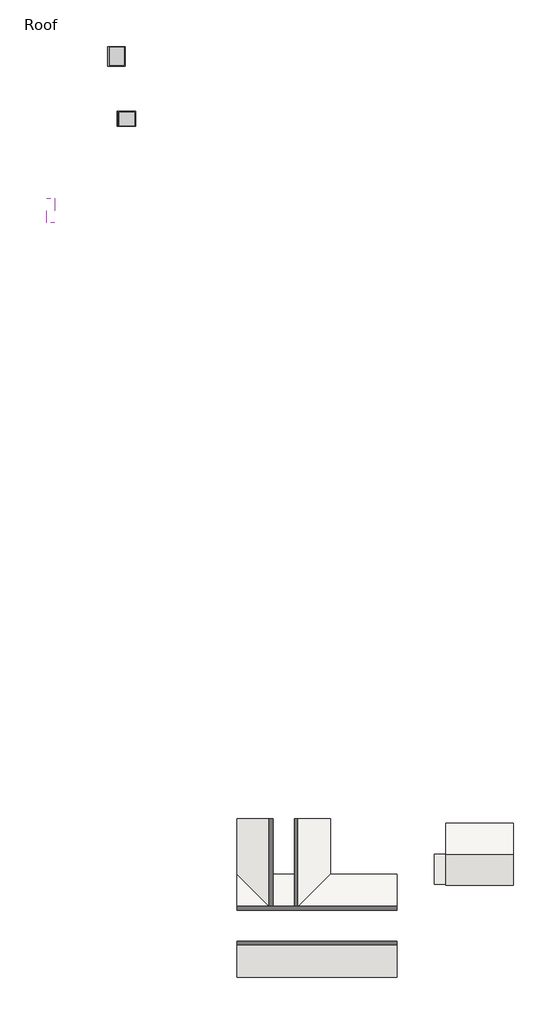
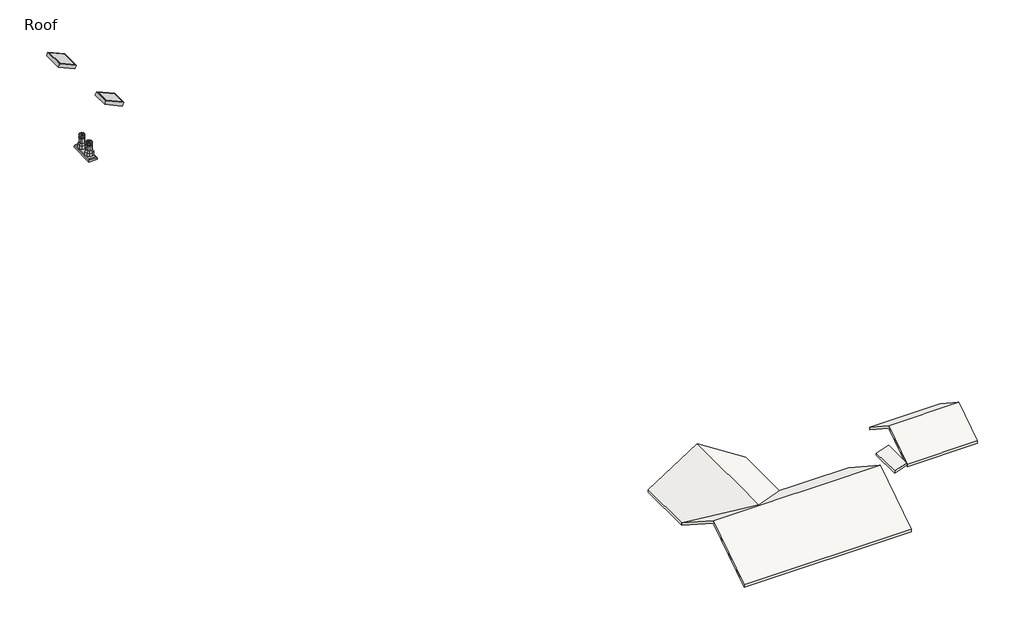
# One storey: 4 roofs, 3 proxies.
"""IFC4 building model written with IfcOpenShell, lengths in millimetres."""

from ifc_helpers import new_model, si_unit, frame, origin, place, context, project, spatial, polyline, outline, extrude, faceted_brep, transform, mapped, element, save
from components import chimney_2123a7b1, default_1_d1f06506, default_1_245d95d3

model = new_model("IFC4")

# Units and contexts
model_context = context("Model", 3, world=origin())
ifc_project = project(units=[si_unit("LENGTHUNIT", "METRE", prefix="MILLI")], contexts=[model_context])

# Site, building, storey
site = spatial("IfcSite", under=ifc_project)
building = spatial("IfcBuilding", under=site)
storey = spatial("IfcBuildingStorey", under=building, Name="Roof", Elevation=2870.2)

# Proxies
placement = place(None, origin())
chimney_shape = chimney_2123a7b1(model_context)
element("IfcBuildingElementProxy", 1, Name="Chimney : 2 Chimney Pots", ObjectType="Chimney : 2 Chimney Pots", at=placement, inside=storey, context=model_context, shape_type="MappedRepresentation", body=[
    mapped(chimney_shape, transform((10813.8593008, 2514.0252932, 5003.8), x_axis=(0.0, 1.0, 0.0), y_axis=(-1.0, 0.0, 0.0), z_axis=(0.0, 0.0, 1.0))),
])
default_1_shape = default_1_d1f06506(model_context)
element("IfcBuildingElementProxy", 2, Name="Skylite : Default 1", ObjectType="Skylite : Default 1", at=placement, inside=storey, context=model_context, shape_type="MappedRepresentation", body=[
    mapped(default_1_shape, transform((13102.167854, 11740.5752932, -82.2358679), x_axis=(0.0, -1.0000000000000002, 0.0), y_axis=(0.9135454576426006, 0.0, -0.40673664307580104), z_axis=(0.40673664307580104, 0.0, 0.9135454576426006))),
])
default_1_2_shape = default_1_245d95d3(model_context)
element("IfcBuildingElementProxy", 3, Name="Skylite : Default 1", ObjectType="Skylite : Default 1", at=placement, inside=storey, context=model_context, shape_type="MappedRepresentation", body=[
    mapped(default_1_2_shape, transform((13691.4981229, 7999.5752932, -344.6226088), x_axis=(0.0, -1.0, 0.0), y_axis=(0.9135454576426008, 0.0, -0.4067366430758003), z_axis=(0.4067366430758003, 0.0, 0.9135454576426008))),
])

# Roofs
element("IfcRoof", 4, ObjectType="Planitar Roof - 5\"", at=placement, inside=storey, context=model_context, shape_type="SweptSolid", body=[
    extrude(outline(polyline([(-43372.8175931, 2823.6907038), (-40286.7175931, 4827.8274772), (-37200.6175931, 2823.6907038), (-37200.6175931, 2672.2605656), (-40286.7175931, 4676.397339), (-43372.8175931, 2672.2605656), (-43372.8175931, 2823.6907038)])), frame((21987.2877703, 0.0, 0.0), z_axis=(1.0, 0.0, 0.0), x_axis=(0.0, 1.0, 0.0)), (0.0, 0.0, 1.0), 9556.75),
])
element("IfcRoof", 5, ObjectType="Planitar Roof - 5\"", at=placement, inside=storey, context=model_context, shape_type="SweptSolid", body=[
    extrude(outline(polyline([(-37845.8381179, 2391.8907038), (-36001.1631179, 3589.8366558), (-34156.4881179, 2391.8907038), (-34156.4881179, 2240.4605656), (-36001.1631179, 3438.4065176), (-37845.8381179, 2240.4605656), (-37845.8381179, 2391.8907038)])), frame((34502.462334, 0.0, 0.0), z_axis=(1.0, 0.0, 0.0), x_axis=(0.0, 1.0, 0.0)), (0.0, 0.0, 1.0), 4019.55),
])
element("IfcRoof", 6, ObjectType="Planitar Roof - 5\"", at=placement, inside=storey, context=model_context, shape_type="Brep", body=[
    faceted_brep([(21987.2877703, -37200.6175931, 2672.2605656), (21987.2877703, -33885.9175931, 2672.2605656), (24778.1127703, -33885.9175931, 4484.6435119), (24778.1127703, -39758.2606288, 4484.6435119), (22220.4697346, -37200.6175931, 2823.6907038), (27568.9377703, -33885.9175931, 2672.2605656), (27568.9377703, -37200.6175931, 2672.2605656), (27335.7558061, -37200.6175931, 2823.6907038), (21987.2877703, -33885.9175931, 2823.6907038), (21987.2877703, -37200.6175931, 2823.6907038), (24778.1127703, -39991.4425931, 4636.0736501), (24778.1127703, -33885.9175931, 4636.0736501), (27568.9377703, -33885.9175931, 2823.6907038), (27568.9377703, -37200.6175931, 2823.6907038)], [[[0, 1, 2, 3, 4]], [[2, 5, 6, 7, 3]], [[8, 9, 10, 11]], [[12, 11, 10, 13]], [[0, 9, 8, 1]], [[5, 12, 13, 6]], [[8, 11, 12, 5, 2, 1]], [[13, 10, 9, 4, 3, 7]], [[7, 6, 13]], [[9, 0, 4]]]),
])
element("IfcRoof", 7, ObjectType="Planitar Roof - 5\"", at=placement, inside=storey, context=model_context, shape_type="SweptSolid", body=[
    extrude(outline(polyline([(2191.9137844, 33801.9141041), (2058.3780819, 33801.9141041), (2286.0, 34502.462334), (2419.5357025, 34502.462334), (2191.9137844, 33801.9141041)])), frame((0.0, -37804.5631179, 0.0), z_axis=(0.0, 1.0, 0.0), x_axis=(0.0, 0.0, 1.0)), (0.0, 0.0, 1.0), 1790.7),
])

save(model, "model.ifc")
